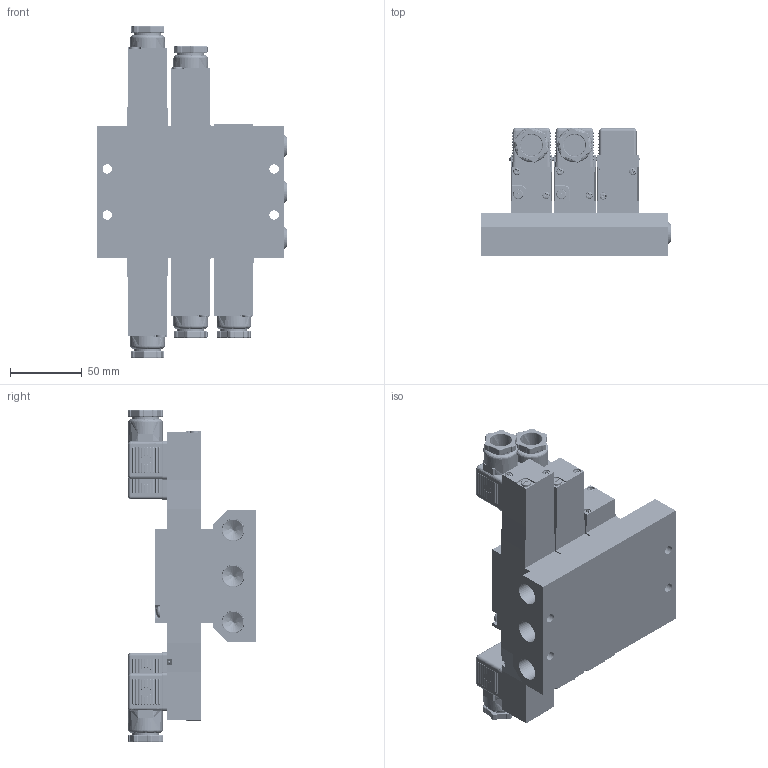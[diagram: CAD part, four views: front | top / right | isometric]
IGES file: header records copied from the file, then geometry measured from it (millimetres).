
Start section: SolidWorks IGES file using analytic representation for surfaces
Global section: file name: D:\Custom\3D繪製\PC\RC08\MFU#-RC08-C.IGS,1; native system: 5HSolidWorks 2014; preprocessor: SolidWorks 2014; author: Chieh_Lu; date: 150820.105439; units: millimetre
Bounding box: 131.89 x 89.14 x 230.7 mm (x, y, z)
Surface area: 209284.4 mm2 (no closed solid volume)
Topology: 0 solids, 0 shells, 3743 faces, 31874 edges, 31129 vertices
Faces by surface type: revolution 2151, bspline 1592
